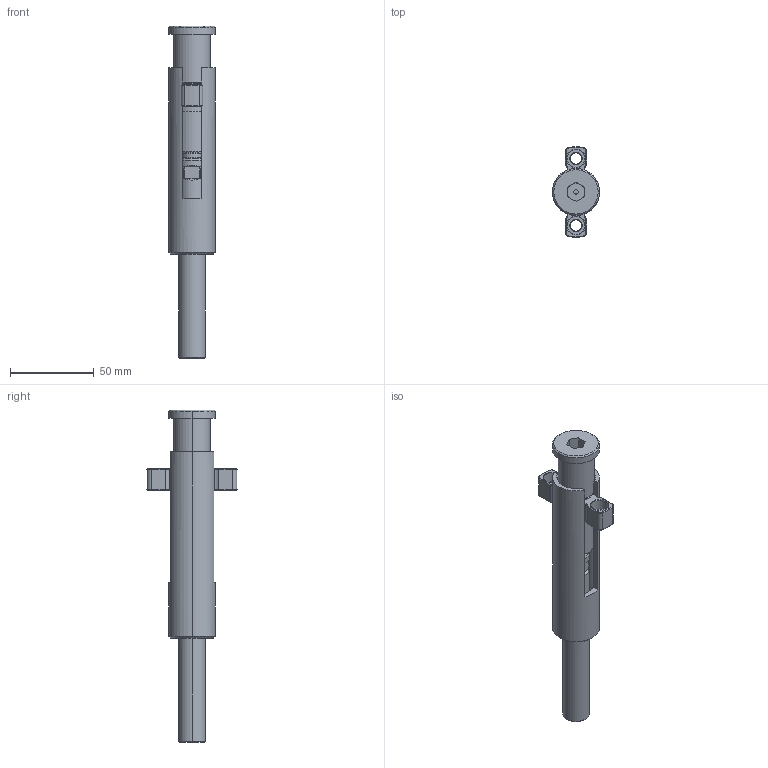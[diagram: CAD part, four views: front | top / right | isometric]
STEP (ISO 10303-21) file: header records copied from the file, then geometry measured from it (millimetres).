
FILE_DESCRIPTION (( 'STEP AP203' ), '1' );
FILE_NAME ('DKL2821.STEP', '2013-08-26T10:36:40', ( '' ), ( '' ), 'SwSTEP 2.0', 'SolidWorks 2013', '' );
FILE_SCHEMA (( 'CONFIG_CONTROL_DESIGN' ));
Length unit declared in the file: millimetre
Products named in the file (9): DKL2072; DKL2011; DKL2821; DKL2031; DKL2062; DKL2051; DKL2021; DKL2041; DKL2081
Assembly tree (11 placements, depth 2):
  DKL2821
    DKL2031
    DKL2062  x4
    DKL2051
    DKL2021
    DKL2041
    DKL2081
    DKL2072
    DKL2011
Bounding box: 28 x 53.93 x 198 mm (x, y, z)
Volume: 75125.7 mm3; surface area: 38716.4 mm2
Topology: 11 solids, 11 shells, 516 faces, 1218 edges, 736 vertices
Faces by surface type: plane 164, cone 141, cylinder 139, torus 54, bspline 18
Entity records: 17900 total; most frequent: CARTESIAN_POINT 6801, DIRECTION 2198, ORIENTED_EDGE 2052, EDGE_CURVE 1026, AXIS2_PLACEMENT_3D 883, VERTEX_POINT 625, EDGE_LOOP 483, CIRCLE 449
